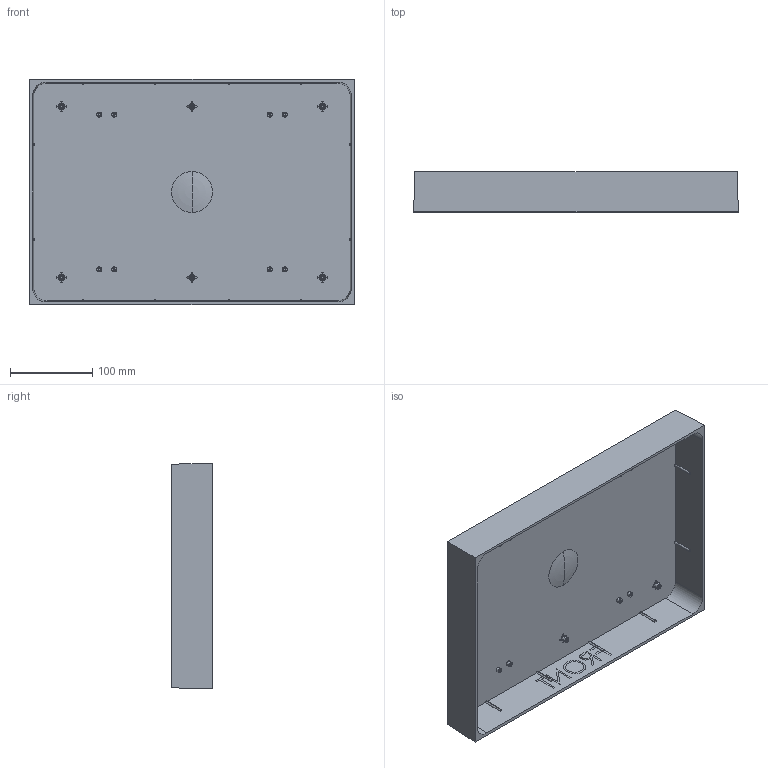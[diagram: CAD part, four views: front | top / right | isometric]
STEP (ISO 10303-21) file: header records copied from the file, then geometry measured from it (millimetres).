
FILE_DESCRIPTION (( 'STEP AP203' ), '1' );
FILE_NAME ('lid inside type 4000.STEP', '2023-03-13T07:53:12', ( '' ), ( '' ), 'SwSTEP 2.0', 'SolidWorks 2022', '' );
FILE_SCHEMA (( 'CONFIG_CONTROL_DESIGN' ));
Length unit declared in the file: millimetre
Products named in the file (1): lid inside type 4000
Bounding box: 394 x 49 x 274 mm (x, y, z)
Volume: 595547.5 mm3; surface area: 340210.4 mm2
Topology: 1 solids, 1 shells, 762 faces, 1758 edges, 1015 vertices
Faces by surface type: bspline 205, plane 199, cylinder 136, torus 98, cone 76, sphere 48
Entity records: 25359 total; most frequent: CARTESIAN_POINT 9595, ORIENTED_EDGE 3464, DIRECTION 3126, EDGE_CURVE 1732, AXIS2_PLACEMENT_3D 1278, VERTEX_POINT 1015, EDGE_LOOP 805, ADVANCED_FACE 762
